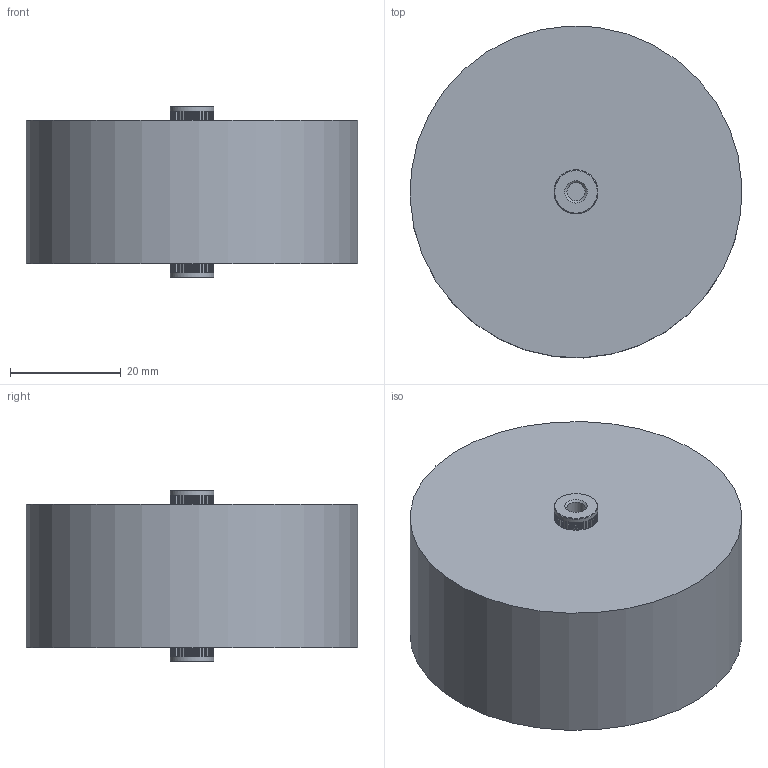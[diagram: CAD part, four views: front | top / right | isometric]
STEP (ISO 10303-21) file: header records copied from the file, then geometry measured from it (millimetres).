
FILE_DESCRIPTION((''),'2;1');
FILE_NAME('I:\Marketing\M6t1\M6T1 - Internal\Drawings\Werk 3\Finished product\Ceramite\Upload for homepage\715\Unterordner\715c40KTD20\Bauteil13.stp','2013-06-10T11:30:07',('sherden'),(''),'Autodesk Inventor 2013','Autodesk Inventor 2013','');
FILE_SCHEMA(('AUTOMOTIVE_DESIGN { 1 2 10303 214 0 1 1 1 }'));
Length unit declared in the file: millimetre
Products named in the file (1): Bauteil13
Bounding box: 59.94 x 59.94 x 31 mm (x, y, z)
Volume: 73442.4 mm3; surface area: 10925 mm2
Topology: 1 solids, 1 shells, 575 faces, 1623 edges, 1054 vertices
Faces by surface type: plane 486, cylinder 85, cone 4
Full cylindrical faces by diameter (mm): 3.302 x2, 7.95 x2, 60 x1
Entity records: 18969 total; most frequent: CARTESIAN_POINT 3240, ORIENTED_EDGE 3224, DIRECTION 3096, EDGE_CURVE 1612, VECTOR 1280, LINE 1280, VERTEX_POINT 1052, AXIS2_PLACEMENT_3D 908
